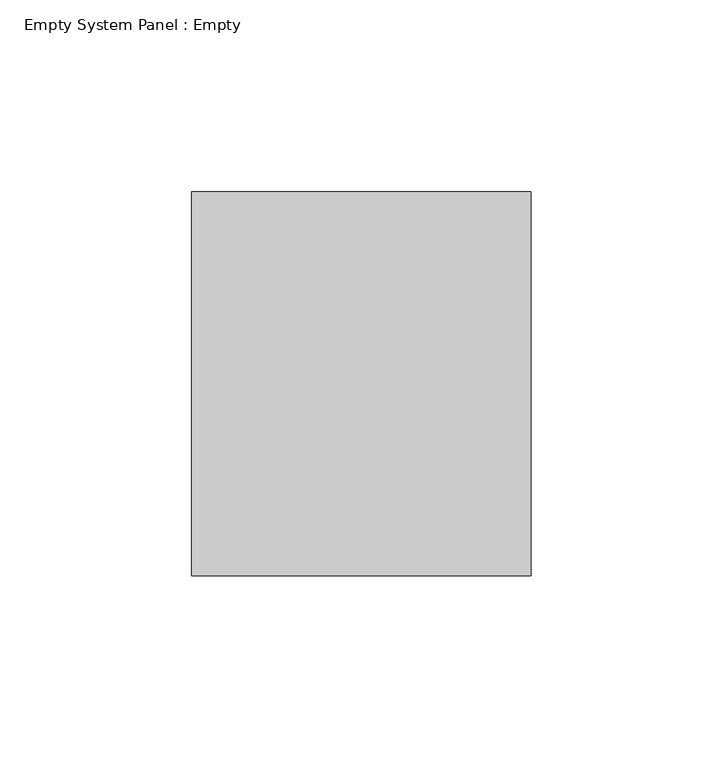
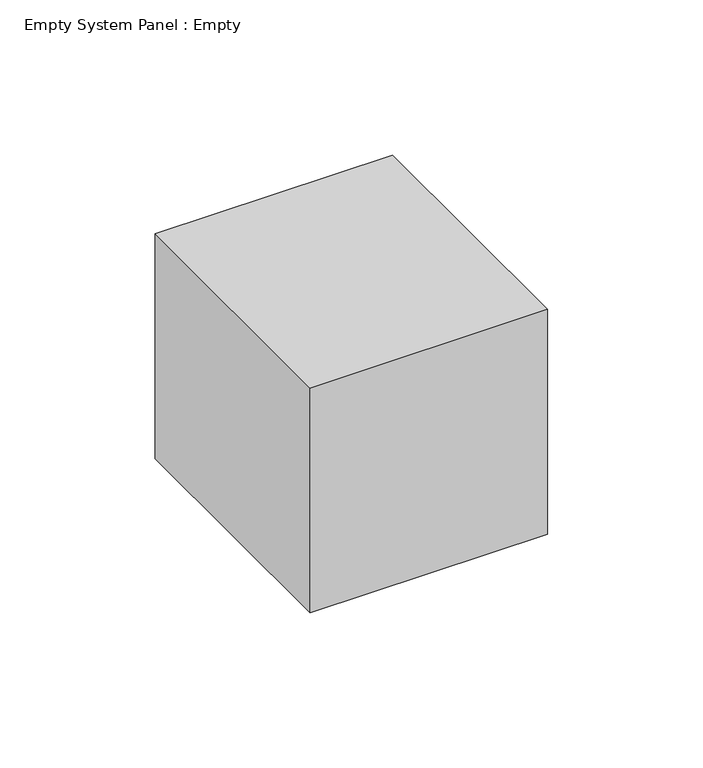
"""IFC4 building model written with IfcOpenShell, lengths in millimetres: plate geometry, Empty System Panel : Empty."""

import ifcopenshell
import ifcopenshell.guid

model = None  # the IFC model being written
_history = None  # IfcOwnerHistory: only IFC2X3 demands one
_inside = {}  # id of a spatial element -> (the spatial element, [elements in it])
_under = {}  # id of a project, library or spatial element -> (it, [spatial elements below it])
_declared = {}  # id of a project -> (the project, [libraries it declares])
_typed = {}  # id of a type object -> (the type object, [elements of that type])
_made_of = {}  # id of a material, layer set ... -> (it, [elements and type objects made of it])


def new_model(schema):
    """Start an empty IFC model of exactly this schema.

    Asked for "IFC4X3", IfcOpenShell would pick the latest addendum, in which some entities
    have other attributes; the version numbers below select the first issue.
    IFC2X3 requires an IfcOwnerHistory on every rooted entity: one is made here for all.
    """
    global model, _history
    if schema == "IFC4X3":
        model = ifcopenshell.file(schema_version=(4, 3, 0, 0))
    else:
        model = ifcopenshell.file(schema=schema)
    _inside.clear()
    _under.clear()
    _declared.clear()
    _typed.clear()
    _made_of.clear()
    _history = None
    if model.schema == "IFC2X3":
        org = make("IfcOrganization", Name="unknown")
        user = make(
            "IfcPersonAndOrganization",
            ThePerson=make("IfcPerson", FamilyName="unknown"),
            TheOrganization=org,
        )
        app = make(
            "IfcApplication",
            ApplicationDeveloper=org,
            Version="unknown",
            ApplicationFullName="unknown",
            ApplicationIdentifier="unknown",
        )
        _history = make(
            "IfcOwnerHistory",
            OwningUser=user,
            OwningApplication=app,
            ChangeAction="ADDED",
            CreationDate=0,
        )
    return model


def make(cls, **values):
    """One entity of the class cls with the attributes given. An attribute that is None is left unset."""
    return model.create_entity(
        cls, **{name: value for name, value in values.items() if value is not None}
    )


def rooted(cls, **values):
    """An entity with a GlobalId (a new one), such as an element, a storey or a relation."""
    return make(cls, GlobalId=ifcopenshell.guid.new(), OwnerHistory=_history, **values)


def si_unit(unit_type, name, prefix=None):
    """IfcSIUnit, for example si_unit("LENGTHUNIT", "METRE", prefix="MILLI")."""
    return make("IfcSIUnit", UnitType=unit_type, Prefix=prefix, Name=name)


def assignment(units):
    """IfcUnitAssignment: the units of a project."""
    return None if units is None else make("IfcUnitAssignment", Units=units)


def point(xyz):
    """IfcCartesianPoint."""
    return None if xyz is None else make("IfcCartesianPoint", Coordinates=xyz)


def direction(xyz):
    """IfcDirection."""
    return None if xyz is None else make("IfcDirection", DirectionRatios=xyz)


def frame(location, z_axis=None, x_axis=None):
    """IfcAxis2Placement3D, a coordinate frame: its origin and axes. An axis left out is left unset."""
    return make(
        "IfcAxis2Placement3D",
        Location=point(location),
        Axis=direction(z_axis),
        RefDirection=direction(x_axis),
    )


def origin():
    """The frame at (0, 0, 0) with its axes left unset."""
    return frame((0.0, 0.0, 0.0))


def origin_with_axes():
    """The frame at (0, 0, 0) with the z axis (0, 0, 1) and the x axis (1, 0, 0) written out."""
    return frame((0.0, 0.0, 0.0), z_axis=(0.0, 0.0, 1.0), x_axis=(1.0, 0.0, 0.0))


def place(relative_to, where):
    """IfcLocalPlacement: puts the frame where relative to a parent placement (None: the world)."""
    return make(
        "IfcLocalPlacement", PlacementRelTo=relative_to, RelativePlacement=where
    )


def context(
    kind, dimensions, precision=None, world=None, true_north=None, identifier=None
):
    """IfcGeometricRepresentationContext, for example the 3D "Model" context."""
    return make(
        "IfcGeometricRepresentationContext",
        ContextIdentifier=identifier,
        ContextType=kind,
        CoordinateSpaceDimension=dimensions,
        Precision=precision,
        WorldCoordinateSystem=world,
        TrueNorth=true_north,
    )


def project(units=None, contexts=None):
    """IfcProject with its units and contexts."""
    return rooted(
        "IfcProject",
        Name="project",
        RepresentationContexts=contexts,
        UnitsInContext=assignment(units),
    )


def spatial(cls, under=None, at=None, **own):
    """A site, building, storey or space (cls), placed at a placement, below another one or the project."""
    s = rooted(cls, ObjectPlacement=at, **own)
    if under is not None:
        _under.setdefault(under.id(), (under, []))[1].append(s)
    return s


def polyline(points):
    """IfcPolyline through the points."""
    return make("IfcPolyline", Points=[point(p) for p in points])


def outline(outer, holes=None, kind="AREA"):
    """IfcArbitraryClosedProfileDef: a profile drawn as a closed curve; with holes, ...WithVoids."""
    if holes is None:
        return make("IfcArbitraryClosedProfileDef", ProfileType=kind, OuterCurve=outer)
    return make(
        "IfcArbitraryProfileDefWithVoids",
        ProfileType=kind,
        OuterCurve=outer,
        InnerCurves=holes,
    )


def extrude(swept, where, along, depth):
    """IfcExtrudedAreaSolid: the profile swept, set in the frame where, extruded along a direction by depth."""
    return make(
        "IfcExtrudedAreaSolid",
        SweptArea=swept,
        Position=where,
        ExtrudedDirection=direction(along),
        Depth=depth,
    )


def shape(context_of_items, identifier, shape_type, items):
    """IfcShapeRepresentation: the items that make up one representation, for example the "Body"."""
    return make(
        "IfcShapeRepresentation",
        ContextOfItems=context_of_items,
        RepresentationIdentifier=identifier,
        RepresentationType=shape_type,
        Items=items,
    )


def source(mapping_origin, context_of_items, identifier, shape_type, items):
    """IfcRepresentationMap: a shape defined once, which mapped items show again and again."""
    return make(
        "IfcRepresentationMap",
        MappingOrigin=mapping_origin,
        MappedRepresentation=shape(context_of_items, identifier, shape_type, items),
    )


def transform(
    local_origin,
    x_axis=None,
    y_axis=None,
    z_axis=None,
    scale=None,
    scale2=None,
    scale3=None,
    uniform=True,
):
    """IfcCartesianTransformationOperator3D, or its non-uniform kind. x_axis, y_axis, z_axis: its Axis1, 2, 3."""
    if uniform:
        return make(
            "IfcCartesianTransformationOperator3D",
            Axis1=direction(x_axis),
            Axis2=direction(y_axis),
            LocalOrigin=point(local_origin),
            Scale=scale,
            Axis3=direction(z_axis),
        )
    return make(
        "IfcCartesianTransformationOperator3DnonUniform",
        Axis1=direction(x_axis),
        Axis2=direction(y_axis),
        LocalOrigin=point(local_origin),
        Scale=scale,
        Axis3=direction(z_axis),
        Scale2=scale2,
        Scale3=scale3,
    )


def mapped(mapping_source, mapping_target):
    """IfcMappedItem: shows the shape of a source again, moved by a transform."""
    return make(
        "IfcMappedItem", MappingSource=mapping_source, MappingTarget=mapping_target
    )


def made_of(thing, what):
    """Note that an element or type object is made of a material, layer set ...; save() writes the relation."""
    if what is not None:
        _made_of.setdefault(what.id(), (what, []))[1].append(thing)
    return thing


def element(
    cls,
    number,
    at=None,
    inside=None,
    cuts=None,
    type_object=None,
    material=None,
    context=None,
    identifier="Body",
    shape_type=None,
    held_by="IfcProductDefinitionShape",
    body=None,
    shapes=None,
    **own,
):
    """One element of the class cls, such as IfcWall. Its Tag is "e" and its number.

    at: its placement. inside: the storey or other place that contains it. cuts: it is an
    opening in that element (IfcRelVoidsElement). A single representation is given by context,
    identifier, shape_type and body (its items); several are given by shapes. held_by: the class
    of the entity that holds the representations. save() writes the other relations.
    """
    e = rooted(cls, Tag="e%d" % number, ObjectPlacement=at, **own)
    if body is not None:
        shapes = [shape(context, identifier, shape_type, body)]
    if shapes is not None:
        e.Representation = make(held_by, Representations=shapes)
    if inside is not None:
        _inside.setdefault(inside.id(), (inside, []))[1].append(e)
    if cuts is not None:
        rooted(
            "IfcRelVoidsElement", RelatingBuildingElement=cuts, RelatedOpeningElement=e
        )
    if type_object is not None:
        _typed.setdefault(type_object.id(), (type_object, []))[1].append(e)
    return made_of(e, material)


def aggregate(whole, parts):
    """IfcRelAggregates: a whole, such as a stair, and the parts it consists of."""
    return rooted("IfcRelAggregates", RelatingObject=whole, RelatedObjects=parts)


def save(model, path):
    """Write the relations noted so far, then the file.

    IfcRelAggregates (storeys below a building ...), IfcRelContainedInSpatialStructure (elements
    in a storey), IfcRelDefinesByType, IfcRelAssociatesMaterial and IfcRelDeclares: one each for
    every whole, place, type object, material and project.
    """
    for whole, parts in _under.values():
        aggregate(whole, parts)
    for where, things in _inside.values():
        rooted(
            "IfcRelContainedInSpatialStructure",
            RelatedElements=things,
            RelatingStructure=where,
        )
    for kind, things in _typed.values():
        rooted("IfcRelDefinesByType", RelatedObjects=things, RelatingType=kind)
    for what, things in _made_of.values():
        rooted("IfcRelAssociatesMaterial", RelatedObjects=things, RelatingMaterial=what)
    for by, libraries in _declared.values():
        rooted("IfcRelDeclares", RelatingContext=by, RelatedDefinitions=libraries)
    model.write(path)


def empty_system_panel_empty_3330a599(model_context):
    return source(origin(), model_context, "Body", "SweptSolid", [
        extrude(outline(polyline([(44.1878048, 50.0), (-44.1878048, 50.0), (-44.1878048, 150.0), (44.1878048, 150.0), (44.1878048, 50.0)])), origin_with_axes(), (0.0, 0.0, 1.0), 88.37561),
    ])


if __name__ == "__main__":
    model = new_model("IFC4")
    model_context = context("Model", 3, world=origin())
    ifc_project = project(units=[si_unit("LENGTHUNIT", "METRE", prefix="MILLI")], contexts=[model_context])
    site = spatial("IfcSite", under=ifc_project)
    building = spatial("IfcBuilding", under=site)
    placement = place(None, origin())
    empty_system_panel_empty_shape = empty_system_panel_empty_3330a599(model_context)
    element("IfcPlate", 1, ObjectType="Empty System Panel : Empty", at=placement, inside=building, context=model_context, shape_type="MappedRepresentation", body=[
        mapped(empty_system_panel_empty_shape, transform((0.0, 0.0, 0.0), x_axis=(1.0, 0.0, 0.0), y_axis=(0.0, 1.0, 0.0), z_axis=(0.0, 0.0, 1.0))),
    ])
    save(model, "model.ifc")
